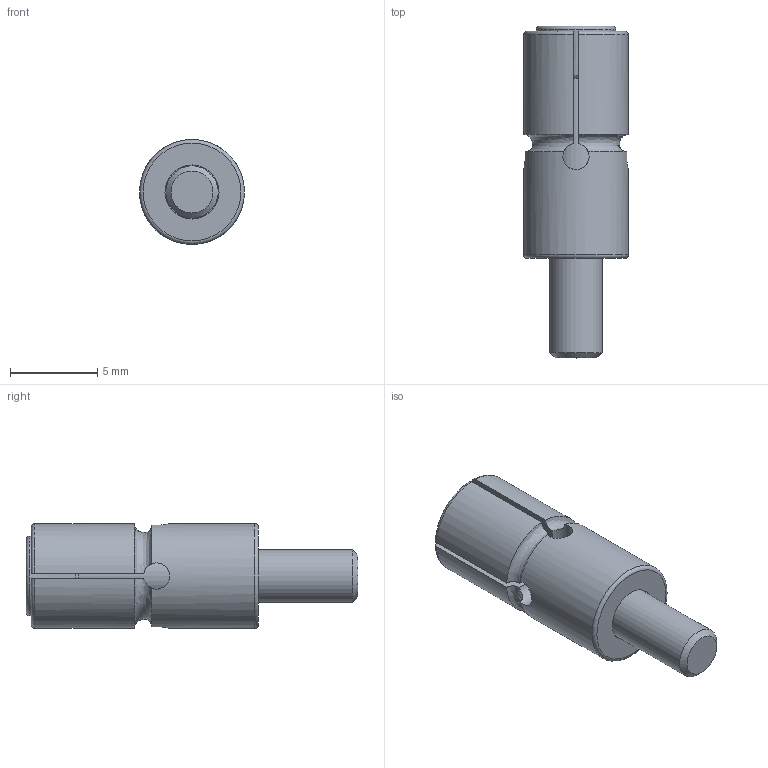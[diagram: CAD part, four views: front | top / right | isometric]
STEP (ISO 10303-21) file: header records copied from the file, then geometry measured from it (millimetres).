
FILE_DESCRIPTION(/* description */ (''),/* implementation_level */ '2;1');
FILE_NAME(/* name */ '6MM扩张销.stp',/* time_stamp */ '2023-11-23T21:11:11+08:00',/* author */ (''),/* organization */ (''),/* preprocessor_version */ 'ST-DEVELOPER v16',/* originating_system */ 'SIEMENS PLM Software NX 10.0',/* authorisation */ '');
FILE_SCHEMA (('CONFIG_CONTROL_DESIGN'));
Length unit declared in the file: millimetre
Products named in the file (1): 6MM扩张销_stp
Bounding box: 6 x 19 x 6 mm (x, y, z)
Volume: 367 mm3; surface area: 696.9 mm2
Topology: 2 solids, 2 shells, 57 faces, 148 edges, 96 vertices
Faces by surface type: plane 23, cylinder 17, torus 7, cone 6, bspline 4
Full cylindrical faces by diameter (mm): 3 x1, 3.1 x1, 6 x1
Entity records: 3397 total; most frequent: CARTESIAN_POINT 2055, ORIENTED_EDGE 272, DIRECTION 228, EDGE_CURVE 136, VERTEX_POINT 92, AXIS2_PLACEMENT_3D 86, EDGE_LOOP 68, ADVANCED_FACE 57
